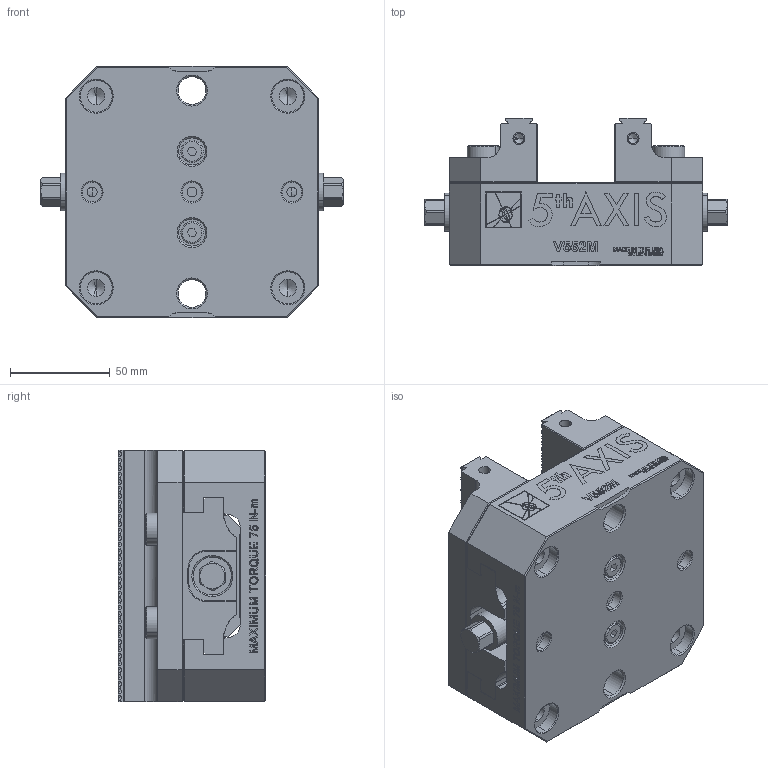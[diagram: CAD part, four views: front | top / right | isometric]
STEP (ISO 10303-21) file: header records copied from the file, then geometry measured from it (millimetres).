
FILE_DESCRIPTION (( 'STEP AP214' ), '1' );
FILE_NAME ('V552M.STEP', '2019-02-22T22:14:41', ( '' ), ( '' ), 'SwSTEP 2.0', 'SolidWorks 2018', '' );
FILE_SCHEMA (( 'AUTOMOTIVE_DESIGN' ));
Length unit declared in the file: millimetre
Products named in the file (13): SB5V; M8X12.DP_DEFAULT; 76300_DEFAULT; V56124-6_V56124-6; V562M-5_FINISHED PART ; V562M-4_V56124-4; V562M-3_V562M-3; V562M-2R_gind op (final right); V562M-2L_V562M-2L; V552M-1_V552M-1; V552M; TIM-58; M3X3.CPSS_DEFAULT
Assembly tree (23 placements, depth 2):
  V552M
    V552M-1_V552M-1
    V562M-2L_V562M-2L
    V562M-2R_gind op (final right)
    V562M-3_V562M-3
    V562M-4_V56124-4
    V562M-5_FINISHED PART   x2
    V56124-6_V56124-6  x2
    76300_DEFAULT  x4
    M8X12.DP_DEFAULT  x4
    SB5V  x2
    M3X3.CPSS_DEFAULT
    TIM-58  x3
Bounding box: 151.64 x 73.65 x 125.73 mm (x, y, z)
Volume: 734304 mm3; surface area: 169086.9 mm2
Topology: 23 solids, 23 shells, 3193 faces, 8562 edges, 5604 vertices
Faces by surface type: plane 1540, cylinder 853, bspline 533, cone 239, sphere 16, torus 12
Entity records: 117449 total; most frequent: CARTESIAN_POINT 43215, ORIENTED_EDGE 13092, DIRECTION 9708, EDGE_CURVE 6546, VECTOR 4356, LINE 4356, VERTEX_POINT 4306, EDGE_LOOP 2702
